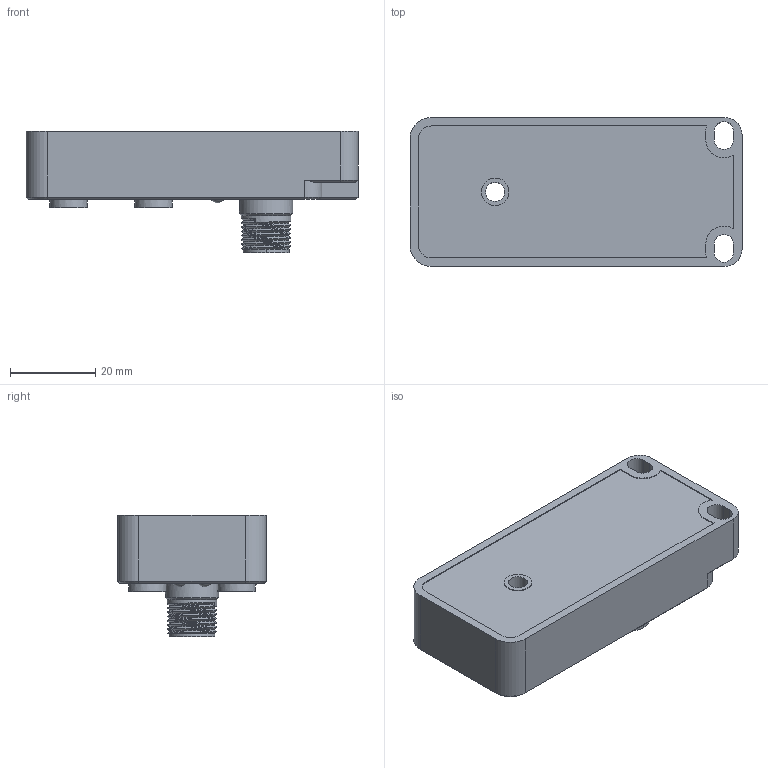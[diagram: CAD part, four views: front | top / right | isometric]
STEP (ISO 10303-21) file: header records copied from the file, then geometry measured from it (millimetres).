
FILE_DESCRIPTION(/* description */ (''),/* implementation_level */ '2;1');
FILE_NAME(/* name */ 'D4M8-3S-M12.stp',/* time_stamp */ '2022-08-27T14:31:15+08:00',/* author */ (''),/* organization */ (''),/* preprocessor_version */ 'ST-DEVELOPER v16.7',/* originating_system */ 'SIEMENS PLM Software NX 12.0',/* authorisation */ '');
FILE_SCHEMA (('AP203_CONFIGURATION_CONTROLLED_3D_DESIGN_OF_MECHANICAL_PARTS_AND_ASSEMBLIES_MIM_LF { 1 0 10303 403 2 1 2}'));
Length unit declared in the file: millimetre
Products named in the file (1): Admi1AF0AE389e44
Bounding box: 78 x 35 x 28.5 mm (x, y, z)
Volume: 39369 mm3; surface area: 19760.5 mm2
Topology: 6 solids, 22 shells, 839 faces, 2204 edges, 1459 vertices
Faces by surface type: plane 478, cylinder 192, cone 65, extrusion 60, torus 21, sphere 13, bspline 10
Full cylindrical faces by diameter (mm): 0.8 x8, 0.9 x8, 1.1 x12, 1.2 x12, 1.4 x24, 1.5 x24, 4.5 x1, 6.5 x2, 7 x1, 9 x4, 9.5 x1, 11.7 x7, 12.5 x1, 16 x1
Entity records: 32679 total; most frequent: CARTESIAN_POINT 13197, ORIENTED_EDGE 3846, DIRECTION 3805, EDGE_CURVE 1923, VERTEX_POINT 1339, AXIS2_PLACEMENT_3D 1303, VECTOR 1199, LINE 1139
